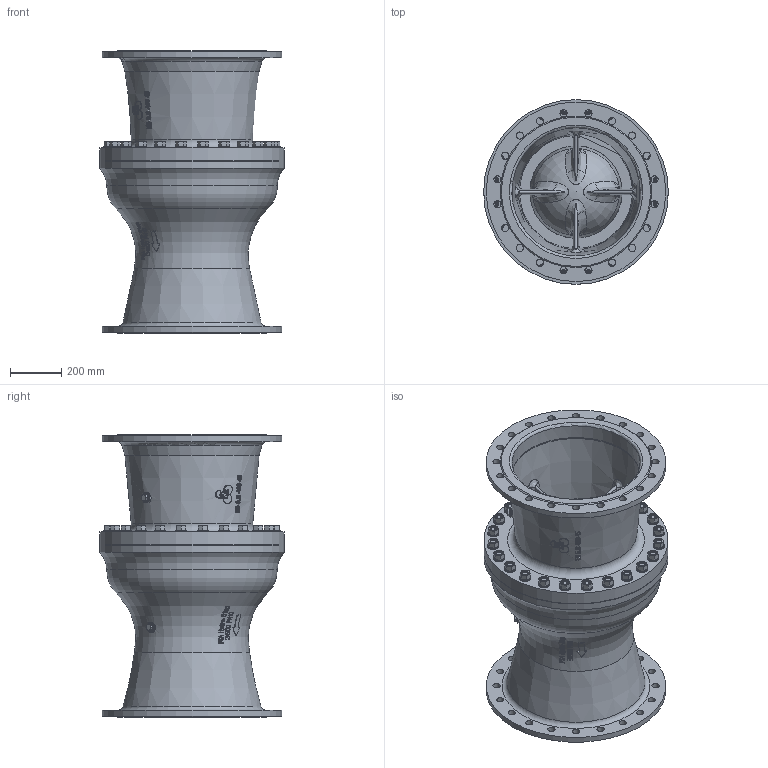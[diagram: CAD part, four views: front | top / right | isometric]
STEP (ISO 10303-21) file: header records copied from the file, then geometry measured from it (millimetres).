
FILE_DESCRIPTION(/* description */ ('PSA Hydro-Stop DN500 PN10'),/* implementation_level */ '2;1');
FILE_NAME(/* name */ 'PSA_Hydro-Stop_DN500_PN10',/* time_stamp */ '2024-10-09T15:38:08+02:00',/* author */ ('Christin-Michelle Fremgen'),/* organization */ ('PSA Wasserarmaturen GmbH'),/* preprocessor_version */ 'ST-DEVELOPER v18.104',/* originating_system */ 'Solid Edge',/* authorisation */ 'Unknown');
FILE_SCHEMA (('AUTOMOTIVE_DESIGN {1 0 10303 214 3 1 1}'));
Products named in the file (1): PSA_Hydro-Stop_DN500_PN10
Bounding box: 720 x 720 x 1100 mm (x, y, z)
Volume: 95016455.3 mm3; surface area: 5685555 mm2
Topology: 1 solids, 71 shells, 1644 faces, 3913 edges, 2560 vertices
Faces by surface type: plane 766, cone 319, cylinder 273, bspline 208, torus 77, sphere 1
Full cylindrical faces by diameter (mm): 17 x2, 17.294 x41, 20 x1, 20.752 x24, 24 x24, 24.5 x9, 25 x24, 27 x26, 28 x40, 28.19 x2, 32 x2, 33 x2, 40 x2, 44 x24, 125.755 x1, 145 x1, 324 x1, 360.36 x1, 450 x1, 500 x2, 700 x2, 720 x2
Entity records: 103352 total; most frequent: CARTESIAN_POINT 59201, ORIENTED_EDGE 6288, DIRECTION 5973, EDGE_CURVE 3144, AXIS2_PLACEMENT_3D 2599, FACE_BOUND 2531, EDGE_LOOP 2528, VERTEX_POINT 2329
